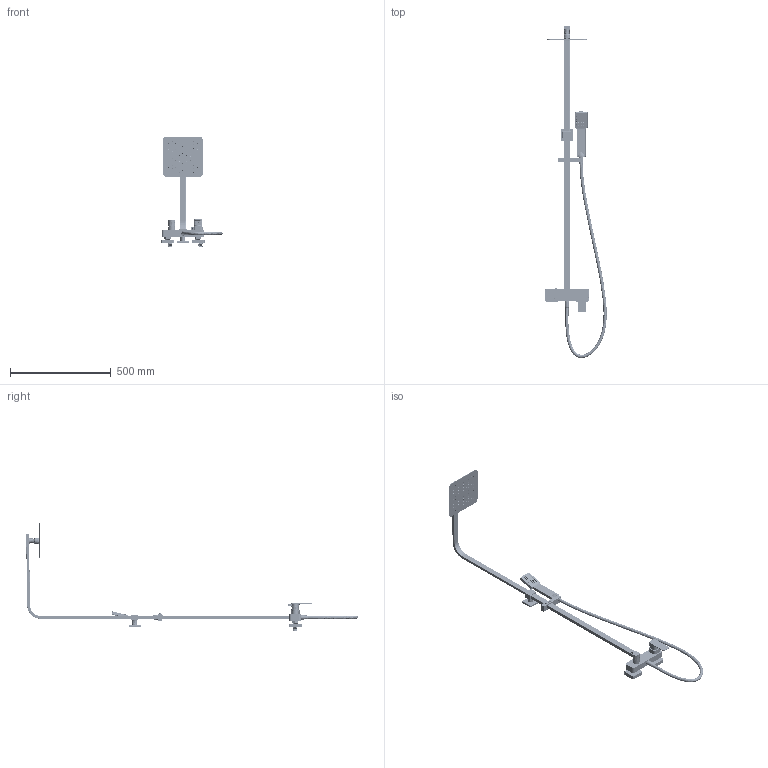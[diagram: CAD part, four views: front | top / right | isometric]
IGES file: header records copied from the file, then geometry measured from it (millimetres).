
Global section: file name: c9d7af90-8fce-4c1b-b6a0-b943cd0a0f5c; native system: unknown; preprocessor: unknown; author: unknown; organization: unknown; date: 20191213.215820; units: millimetre
Bounding box: 304.93 x 1647.37 x 549.84 mm (x, y, z)
Volume: 1403288.8 mm3; surface area: 877519.1 mm2
Topology: 70 solids, 70 shells, 6063 faces, 16282 edges, 9081 vertices
Faces by surface type: bspline 6063
